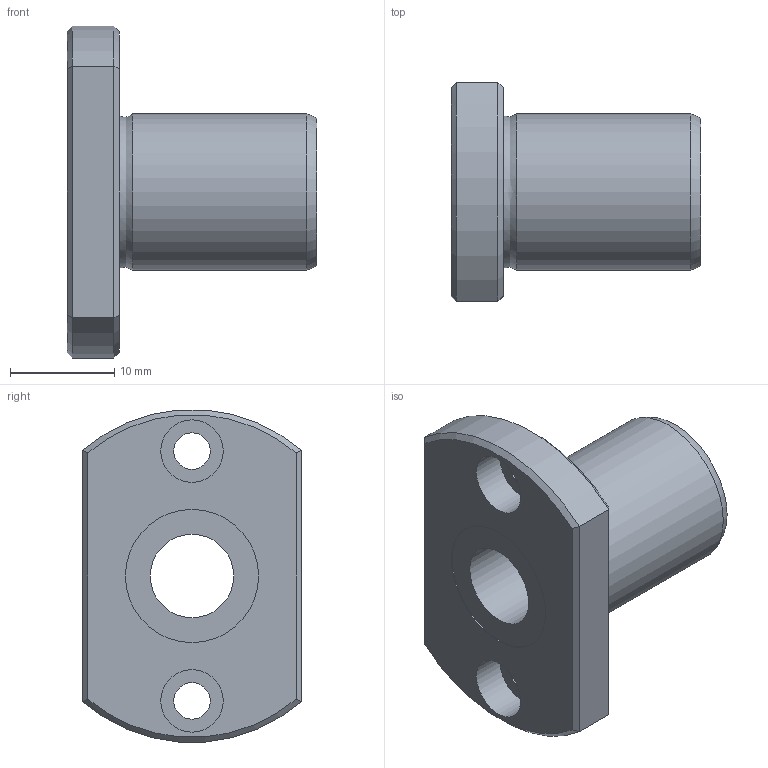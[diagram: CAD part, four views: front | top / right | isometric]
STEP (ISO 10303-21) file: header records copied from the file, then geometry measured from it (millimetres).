
FILE_DESCRIPTION((''),'2;1');
FILE_NAME('D:\製品 (図面)\カタログ用3D\リニアベアリング関連\STEP形式\LFT\LFT8.stp','2010-06-04T09:15:40',('Tsuchiya'),(''),'Autodesk Inventor 10','Autodesk Inventor 10','');
FILE_SCHEMA(('AUTOMOTIVE_DESIGN { 1 0 10303 214 1 1 1 1 }'));
Length unit declared in the file: millimetre
Products named in the file (1): LFT8
Bounding box: 24 x 21 x 31.9 mm (x, y, z)
Volume: 4974.6 mm3; surface area: 3172 mm2
Topology: 1 solids, 1 shells, 29 faces, 56 edges, 34 vertices
Faces by surface type: plane 13, cylinder 10, cone 4, torus 1, bspline 1
Full cylindrical faces by diameter (mm): 3.5 x2, 6 x2, 8 x1, 12.8 x2, 15 x1
Entity records: 787 total; most frequent: CARTESIAN_POINT 196, DIRECTION 122, ORIENTED_EDGE 92, AXIS2_PLACEMENT_3D 55, EDGE_LOOP 50, EDGE_CURVE 46, VERTEX_POINT 34, FACE_OUTER_BOUND 29
